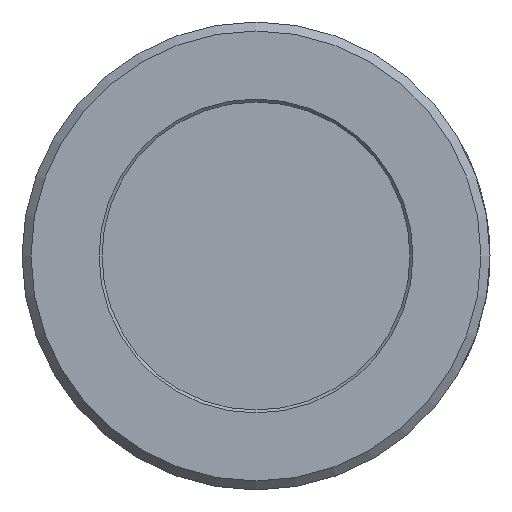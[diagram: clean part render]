
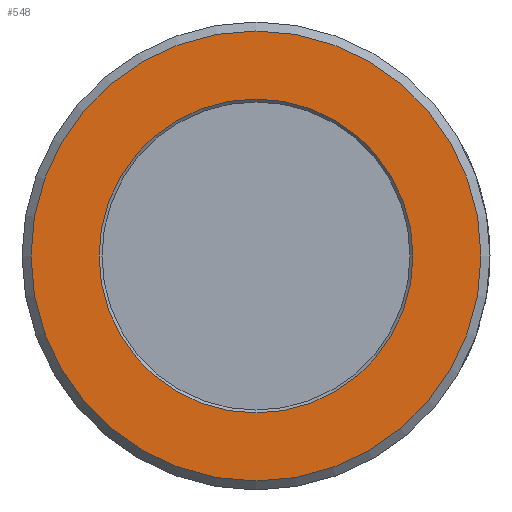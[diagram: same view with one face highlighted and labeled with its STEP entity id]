
A CAD part, left-side view. The second image highlights one B-rep face of the part: STEP entity #548.
In plain terms, the highlighted planar face has unit normal (-1, 0, 0).
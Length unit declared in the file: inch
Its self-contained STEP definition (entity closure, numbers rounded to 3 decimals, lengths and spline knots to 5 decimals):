
#548 = ADVANCED_FACE( '', ( #1136, #1137 ), #1138, .T. );
#1136 = FACE_OUTER_BOUND( '', #3435, .T. );
#1137 = FACE_BOUND( '', #3436, .T. );
#1138 = PLANE( '', #3437 );
#3435 = EDGE_LOOP( '', ( #5022 ) );
#3436 = EDGE_LOOP( '', ( #5023 ) );
#3437 = AXIS2_PLACEMENT_3D( '', #5024, #5025, #5026 );
#5022 = ORIENTED_EDGE( '', *, *, #5725, .T. );
#5023 = ORIENTED_EDGE( '', *, *, #5239, .F. );
#5024 = CARTESIAN_POINT( '', ( 0., 0., 0.8125 ) );
#5025 = DIRECTION( '', ( -1., 0., 0. ) );
#5026 = DIRECTION( '', ( 0., 0., 1. ) );
#5239 = EDGE_CURVE( '', #5960, #5960, #5961, .T. );
#5725 = EDGE_CURVE( '', #6704, #6704, #6705, .T. );
#5960 = VERTEX_POINT( '', #7161 );
#5961 = CIRCLE( '', #7162, 0.545 );
#6704 = VERTEX_POINT( '', #9495 );
#6705 = CIRCLE( '', #9496, 0.78125 );
#7161 = CARTESIAN_POINT( '', ( 0., 0., 0.545 ) );
#7162 = AXIS2_PLACEMENT_3D( '', #9721, #9722, #9723 );
#9495 = CARTESIAN_POINT( '', ( 0., 0., 0.78125 ) );
#9496 = AXIS2_PLACEMENT_3D( '', #9742, #9743, #9744 );
#9721 = CARTESIAN_POINT( '', ( 0., 0., 0. ) );
#9722 = DIRECTION( '', ( -1., 0., 0. ) );
#9723 = DIRECTION( '', ( 0., 0., 1. ) );
#9742 = CARTESIAN_POINT( '', ( 0., 0., 0. ) );
#9743 = DIRECTION( '', ( -1., 0., 0. ) );
#9744 = DIRECTION( '', ( 0., 0., 1. ) );
